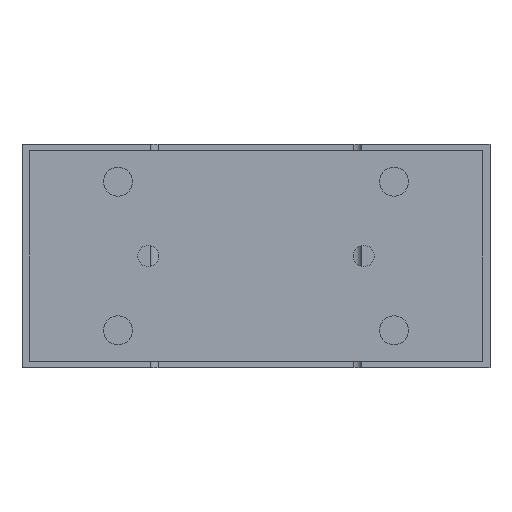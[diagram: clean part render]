
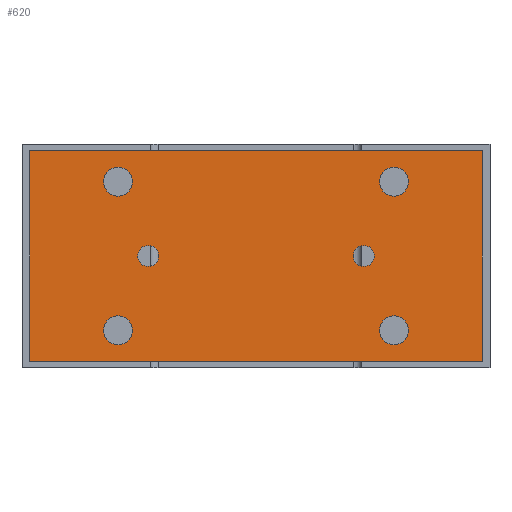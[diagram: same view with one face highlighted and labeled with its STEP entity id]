
A CAD part, left-side view. The second image highlights one B-rep face of the part: STEP entity #620.
In plain terms, the highlighted planar face has unit normal (-1, 0, 0).
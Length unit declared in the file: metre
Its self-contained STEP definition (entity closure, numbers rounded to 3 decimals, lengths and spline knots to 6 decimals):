
#620 = ADVANCED_FACE( '', ( #1385, #1386, #1387, #1388, #1389, #1390, #1391 ), #1392, .T. );
#1385 = FACE_BOUND( '', #2185, .T. );
#1386 = FACE_BOUND( '', #2186, .T. );
#1387 = FACE_BOUND( '', #2187, .T. );
#1388 = FACE_BOUND( '', #2188, .T. );
#1389 = FACE_BOUND( '', #2189, .T. );
#1390 = FACE_BOUND( '', #2190, .T. );
#1391 = FACE_OUTER_BOUND( '', #2191, .T. );
#1392 = PLANE( '', #2192 );
#2185 = EDGE_LOOP( '', ( #3656 ) );
#2186 = EDGE_LOOP( '', ( #3657 ) );
#2187 = EDGE_LOOP( '', ( #3658 ) );
#2188 = EDGE_LOOP( '', ( #3659 ) );
#2189 = EDGE_LOOP( '', ( #3660 ) );
#2190 = EDGE_LOOP( '', ( #3661 ) );
#2191 = EDGE_LOOP( '', ( #3662, #3663, #3664, #3665 ) );
#2192 = AXIS2_PLACEMENT_3D( '', #3666, #3667, #3668 );
#3656 = ORIENTED_EDGE( '', *, *, #4227, .F. );
#3657 = ORIENTED_EDGE( '', *, *, #4322, .F. );
#3658 = ORIENTED_EDGE( '', *, *, #4346, .F. );
#3659 = ORIENTED_EDGE( '', *, *, #3921, .F. );
#3660 = ORIENTED_EDGE( '', *, *, #4304, .F. );
#3661 = ORIENTED_EDGE( '', *, *, #4233, .T. );
#3662 = ORIENTED_EDGE( '', *, *, #4094, .T. );
#3663 = ORIENTED_EDGE( '', *, *, #4164, .T. );
#3664 = ORIENTED_EDGE( '', *, *, #3828, .T. );
#3665 = ORIENTED_EDGE( '', *, *, #4080, .T. );
#3666 = CARTESIAN_POINT( '', ( -0.118, -0.086, -0.0025 ) );
#3667 = DIRECTION( '', ( -1., 0., 0. ) );
#3668 = DIRECTION( '', ( 0., 0., 1. ) );
#3828 = EDGE_CURVE( '', #4410, #4408, #4411, .T. );
#3921 = EDGE_CURVE( '', #4565, #4565, #4566, .T. );
#4080 = EDGE_CURVE( '', #4408, #4814, #4816, .T. );
#4094 = EDGE_CURVE( '', #4814, #4834, #4836, .T. );
#4164 = EDGE_CURVE( '', #4834, #4410, #4937, .T. );
#4227 = EDGE_CURVE( '', #5021, #5021, #5022, .T. );
#4233 = EDGE_CURVE( '', #5031, #5031, #5032, .T. );
#4304 = EDGE_CURVE( '', #5125, #5125, #5126, .T. );
#4322 = EDGE_CURVE( '', #5147, #5147, #5148, .T. );
#4346 = EDGE_CURVE( '', #5175, #5175, #5176, .T. );
#4408 = VERTEX_POINT( '', #5254 );
#4410 = VERTEX_POINT( '', #5257 );
#4411 = LINE( '', #5258, #5259 );
#4565 = VERTEX_POINT( '', #5489 );
#4566 = CIRCLE( '', #5490, 0.0055 );
#4814 = VERTEX_POINT( '', #5869 );
#4816 = LINE( '', #5872, #5873 );
#4834 = VERTEX_POINT( '', #5895 );
#4836 = LINE( '', #5898, #5899 );
#4937 = LINE( '', #6058, #6059 );
#5021 = VERTEX_POINT( '', #6192 );
#5022 = CIRCLE( '', #6193, 0.0055 );
#5031 = VERTEX_POINT( '', #6235 );
#5032 = CIRCLE( '', #6236, 0.004 );
#5125 = VERTEX_POINT( '', #6381 );
#5126 = CIRCLE( '', #6382, 0.004 );
#5147 = VERTEX_POINT( '', #6405 );
#5148 = CIRCLE( '', #6406, 0.0055 );
#5175 = VERTEX_POINT( '', #6472 );
#5176 = CIRCLE( '', #6473, 0.0055 );
#5254 = CARTESIAN_POINT( '', ( -0.118, 0.086, -0.0825 ) );
#5257 = CARTESIAN_POINT( '', ( -0.118, 0.086, -0.0025 ) );
#5258 = CARTESIAN_POINT( '', ( -0.118, 0.086, -0.0025 ) );
#5259 = VECTOR( '', #6522, 1. );
#5489 = CARTESIAN_POINT( '', ( -0.118, 0.0525, -0.00875 ) );
#5490 = AXIS2_PLACEMENT_3D( '', #6644, #6645, #6646 );
#5869 = CARTESIAN_POINT( '', ( -0.118, -0.086, -0.0825 ) );
#5872 = CARTESIAN_POINT( '', ( -0.118, 0.086, -0.0825 ) );
#5873 = VECTOR( '', #6833, 1. );
#5895 = CARTESIAN_POINT( '', ( -0.118, -0.086, -0.0025 ) );
#5898 = CARTESIAN_POINT( '', ( -0.118, -0.086, -0.0825 ) );
#5899 = VECTOR( '', #6854, 1. );
#6058 = CARTESIAN_POINT( '', ( -0.118, -0.086, -0.0025 ) );
#6059 = VECTOR( '', #6931, 1. );
#6192 = CARTESIAN_POINT( '', ( -0.118, -0.0525, -0.06525 ) );
#6193 = AXIS2_PLACEMENT_3D( '', #7002, #7003, #7004 );
#6235 = CARTESIAN_POINT( '', ( -0.118, 0.037, -0.0425 ) );
#6236 = AXIS2_PLACEMENT_3D( '', #7011, #7012, #7013 );
#6381 = CARTESIAN_POINT( '', ( -0.118, -0.037, -0.0425 ) );
#6382 = AXIS2_PLACEMENT_3D( '', #7078, #7079, #7080 );
#6405 = CARTESIAN_POINT( '', ( -0.118, 0.0525, -0.06525 ) );
#6406 = AXIS2_PLACEMENT_3D( '', #7092, #7093, #7094 );
#6472 = CARTESIAN_POINT( '', ( -0.118, -0.0525, -0.00875 ) );
#6473 = AXIS2_PLACEMENT_3D( '', #7104, #7105, #7106 );
#6522 = DIRECTION( '', ( 0., 0., -1. ) );
#6644 = CARTESIAN_POINT( '', ( -0.118, 0.0525, -0.01425 ) );
#6645 = DIRECTION( '', ( -1., 0., 0. ) );
#6646 = DIRECTION( '', ( 0., 0., 1. ) );
#6833 = DIRECTION( '', ( 0., -1., 0. ) );
#6854 = DIRECTION( '', ( 0., 0., 1. ) );
#6931 = DIRECTION( '', ( 0., 1., 0. ) );
#7002 = CARTESIAN_POINT( '', ( -0.118, -0.0525, -0.07075 ) );
#7003 = DIRECTION( '', ( -1., 0., 0. ) );
#7004 = DIRECTION( '', ( 0., 0., 1. ) );
#7011 = CARTESIAN_POINT( '', ( -0.118, 0.041, -0.0425 ) );
#7012 = DIRECTION( '', ( 1., 0., 0. ) );
#7013 = DIRECTION( '', ( 0., -1., 0. ) );
#7078 = CARTESIAN_POINT( '', ( -0.118, -0.041, -0.0425 ) );
#7079 = DIRECTION( '', ( -1., 0., 0. ) );
#7080 = DIRECTION( '', ( 0., 1., 0. ) );
#7092 = CARTESIAN_POINT( '', ( -0.118, 0.0525, -0.07075 ) );
#7093 = DIRECTION( '', ( -1., 0., 0. ) );
#7094 = DIRECTION( '', ( 0., 0., 1. ) );
#7104 = CARTESIAN_POINT( '', ( -0.118, -0.0525, -0.01425 ) );
#7105 = DIRECTION( '', ( -1., 0., 0. ) );
#7106 = DIRECTION( '', ( 0., 0., 1. ) );
